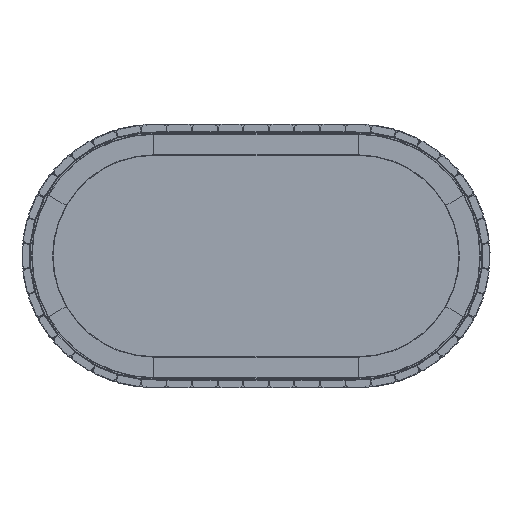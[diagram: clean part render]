
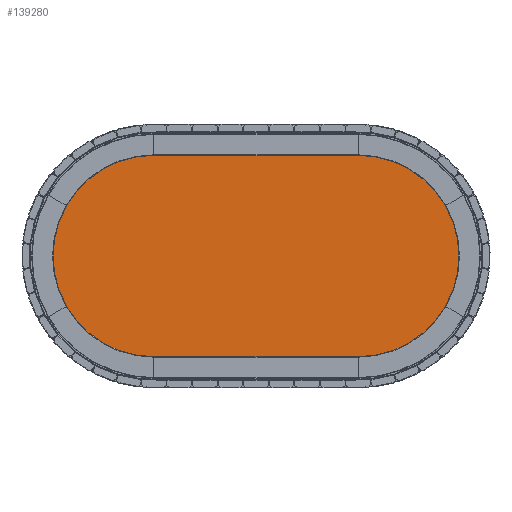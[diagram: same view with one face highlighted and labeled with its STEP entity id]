
A CAD part, front view. The second image highlights one B-rep face of the part: STEP entity #139280.
In plain terms, the highlighted planar face has unit normal (0, -1, 0).
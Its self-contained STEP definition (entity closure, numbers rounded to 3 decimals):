
#10183 = DIRECTION ( 'NONE',  ( 0., 1., 0. ) ) ;
#14297 = DIRECTION ( 'NONE',  ( -0.5, 0., 0.866 ) ) ;
#15600 = DIRECTION ( 'NONE',  ( 0., 1., 0. ) ) ;
#20574 = CARTESIAN_POINT ( 'NONE',  ( -310., 30., 0. ) ) ;
#22451 = DIRECTION ( 'NONE',  ( 1., 0., 0. ) ) ;
#23006 = CARTESIAN_POINT ( 'NONE',  ( -574.138, 30., -152.5 ) ) ;
#23839 = EDGE_CURVE ( 'Defeatured_0_6229+Defeatured_0_6248+Defeatured_0_6219+Defeatured_0_6244', #132463, #163647, #126423, .T. ) ;
#24138 = AXIS2_PLACEMENT_3D ( 'NONE', #154905, #10183, #66544 ) ;
#35259 = LINE ( 'NONE', #63417, #185692 ) ;
#36059 = FACE_OUTER_BOUND ( 'NONE', #153725, .T. ) ;
#39897 = AXIS2_PLACEMENT_3D ( 'NONE', #59826, #103537, #160825 ) ;
#42886 = DIRECTION ( 'NONE',  ( 1., 0., 0. ) ) ;
#43757 = CARTESIAN_POINT ( 'NONE',  ( 310., 30., 0. ) ) ;
#45923 = ORIENTED_EDGE ( 'NONE', *, *, #100493, .T. ) ;
#46753 = CARTESIAN_POINT ( 'NONE',  ( 310., 30., 305. ) ) ;
#55782 = CIRCLE ( 'NONE', #176650, 305. ) ;
#56514 = VECTOR ( 'NONE', #42886, 1000. ) ;
#58506 = EDGE_CURVE ( 'Defeatured_0_6248+Defeatured_0_6224+Defeatured_0_6219+Defeatured_0_6214', #139202, #180017, #85617, .T. ) ;
#58554 = CARTESIAN_POINT ( 'NONE',  ( -310., 30., 0. ) ) ;
#58841 = DIRECTION ( 'NONE',  ( 0., -1., 0. ) ) ;
#58936 = CARTESIAN_POINT ( 'NONE',  ( 310., 30., 0. ) ) ;
#59400 = CIRCLE ( 'NONE', #81162, 305. ) ;
#59800 = DIRECTION ( 'NONE',  ( 1., 0., 0. ) ) ;
#59826 = CARTESIAN_POINT ( 'NONE',  ( 310., 30., 0. ) ) ;
#60751 = CARTESIAN_POINT ( 'NONE',  ( 310., 30., 0. ) ) ;
#63417 = CARTESIAN_POINT ( 'NONE',  ( -310., 30., 305. ) ) ;
#64219 = DIRECTION ( 'NONE',  ( 0., -1., 0. ) ) ;
#66544 = DIRECTION ( 'NONE',  ( -0.5, 0., -0.866 ) ) ;
#68785 = AXIS2_PLACEMENT_3D ( 'NONE', #43757, #15600, #151460 ) ;
#69388 = CARTESIAN_POINT ( 'NONE',  ( -310., 30., 305. ) ) ;
#70176 = VERTEX_POINT ( 'NONE', #91165 ) ;
#81162 = AXIS2_PLACEMENT_3D ( 'NONE', #58554, #98401, #117783 ) ;
#85617 = LINE ( 'NONE', #175885, #56514 ) ;
#85991 = ORIENTED_EDGE ( 'NONE', *, *, #164422, .F. ) ;
#91165 = CARTESIAN_POINT ( 'NONE',  ( 574.138, 30., -152.5 ) ) ;
#92776 = VERTEX_POINT ( 'NONE', #114736 ) ;
#96217 = PLANE ( 'NONE',  #187825 ) ;
#98401 = DIRECTION ( 'NONE',  ( 0., 1., 0. ) ) ;
#99613 = VERTEX_POINT ( 'NONE', #69388 ) ;
#100493 = EDGE_CURVE ( 'Defeatured_0_6248+Defeatured_0_6214+Defeatured_0_6224+Defeatured_0_6234', #180017, #70176, #171578, .T. ) ;
#103059 = CIRCLE ( 'NONE', #68785, 305. ) ;
#103537 = DIRECTION ( 'NONE',  ( 0., 1., 0. ) ) ;
#106470 = AXIS2_PLACEMENT_3D ( 'NONE', #60751, #58841, #59800 ) ;
#109442 = CARTESIAN_POINT ( 'NONE',  ( 310., 30., -305. ) ) ;
#109888 = DIRECTION ( 'NONE',  ( 1., 0., 0. ) ) ;
#113100 = ORIENTED_EDGE ( 'NONE', *, *, #163959, .F. ) ;
#114736 = CARTESIAN_POINT ( 'NONE',  ( 615., 30., 0. ) ) ;
#115885 = ORIENTED_EDGE ( 'NONE', *, *, #58506, .T. ) ;
#117783 = DIRECTION ( 'NONE',  ( 0.5, 0., -0.866 ) ) ;
#121538 = CARTESIAN_POINT ( 'NONE',  ( -310., 30., -305. ) ) ;
#125010 = VERTEX_POINT ( 'NONE', #46753 ) ;
#126423 = CIRCLE ( 'NONE', #24138, 305. ) ;
#128907 = ORIENTED_EDGE ( 'NONE', *, *, #184632, .F. ) ;
#132463 = VERTEX_POINT ( 'NONE', #23006 ) ;
#138194 = VERTEX_POINT ( 'NONE', #161392 ) ;
#139004 = DIRECTION ( 'NONE',  ( 0., -1., 0. ) ) ;
#139202 = VERTEX_POINT ( 'NONE', #121538 ) ;
#139280 = ADVANCED_FACE ( 'Defeatured_0_6248', ( #36059 ), #96217, .T. ) ;
#143572 = CARTESIAN_POINT ( 'NONE',  ( -574.138, 30., 152.5 ) ) ;
#148438 = CIRCLE ( 'NONE', #39897, 305. ) ;
#150174 = DIRECTION ( 'NONE',  ( 0., 1., 0. ) ) ;
#150954 = CIRCLE ( 'NONE', #175735, 305. ) ;
#151460 = DIRECTION ( 'NONE',  ( 0.5, 0., 0.866 ) ) ;
#153725 = EDGE_LOOP ( 'NONE', ( #115885, #45923, #85991, #171503, #128907, #177207, #175770, #162027, #113100 ) ) ;
#154905 = CARTESIAN_POINT ( 'NONE',  ( -310., 30., 0. ) ) ;
#160825 = DIRECTION ( 'NONE',  ( 0.5, 0., 0.866 ) ) ;
#161392 = CARTESIAN_POINT ( 'NONE',  ( 574.138, 30., 152.5 ) ) ;
#162027 = ORIENTED_EDGE ( 'NONE', *, *, #23839, .F. ) ;
#162059 = EDGE_CURVE ( 'Defeatured_0_6248+Defeatured_0_6244+Defeatured_0_6239+Defeatured_0_6229', #99613, #163647, #55782, .T. ) ;
#163647 = VERTEX_POINT ( 'NONE', #143572 ) ;
#163959 = EDGE_CURVE ( 'Defeatured_0_6219+Defeatured_0_6248+Defeatured_0_6224+Defeatured_0_6229', #139202, #132463, #59400, .T. ) ;
#164422 = EDGE_CURVE ( 'Defeatured_0_6234+Defeatured_0_6248+Defeatured_0_6209+Defeatured_0_6214', #92776, #70176, #103059, .T. ) ;
#171503 = ORIENTED_EDGE ( 'NONE', *, *, #186385, .F. ) ;
#171578 = CIRCLE ( 'NONE', #106470, 305. ) ;
#175735 = AXIS2_PLACEMENT_3D ( 'NONE', #58936, #150174, #14297 ) ;
#175770 = ORIENTED_EDGE ( 'NONE', *, *, #162059, .T. ) ;
#175885 = CARTESIAN_POINT ( 'NONE',  ( -310., 30., -305. ) ) ;
#176650 = AXIS2_PLACEMENT_3D ( 'NONE', #20574, #139004, #109888 ) ;
#177207 = ORIENTED_EDGE ( 'NONE', *, *, #178470, .T. ) ;
#178470 = EDGE_CURVE ( 'Defeatured_0_6248+Defeatured_0_6239+Defeatured_0_6209+Defeatured_0_6244', #125010, #99613, #35259, .T. ) ;
#180017 = VERTEX_POINT ( 'NONE', #109442 ) ;
#181849 = DIRECTION ( 'NONE',  ( -1., 0., 0. ) ) ;
#183635 = CARTESIAN_POINT ( 'NONE',  ( 0., 30., 0. ) ) ;
#184632 = EDGE_CURVE ( 'Defeatured_0_6209+Defeatured_0_6248+Defeatured_0_6239+Defeatured_0_6234', #125010, #138194, #150954, .T. ) ;
#185692 = VECTOR ( 'NONE', #181849, 1000. ) ;
#186385 = EDGE_CURVE ( 'Defeatured_0_6234+Defeatured_0_6248+Defeatured_0_6209+Defeatured_0_6214', #138194, #92776, #148438, .T. ) ;
#187825 = AXIS2_PLACEMENT_3D ( 'NONE', #183635, #64219, #22451 ) ;
